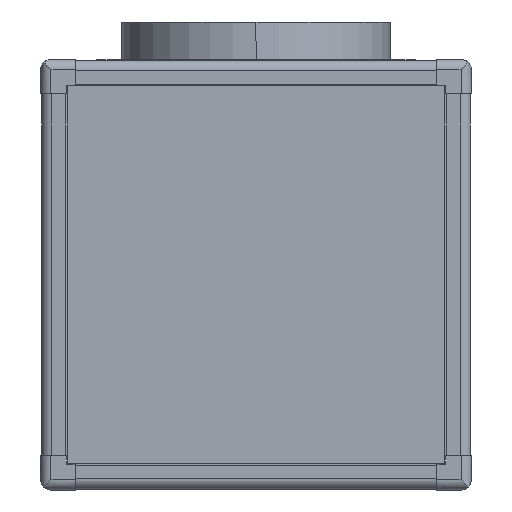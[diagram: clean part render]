
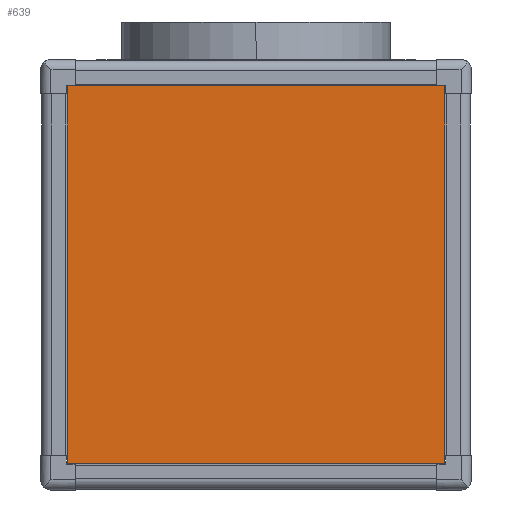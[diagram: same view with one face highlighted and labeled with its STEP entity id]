
A CAD part, front view. The second image highlights one B-rep face of the part: STEP entity #639.
In plain terms, the highlighted planar face has unit normal (0, -1, 0).
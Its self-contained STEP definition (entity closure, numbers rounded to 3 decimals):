
#639=ADVANCED_FACE('',(#1653),#1654,.T.);
#1653=FACE_OUTER_BOUND('',#3161,.T.);
#1654=PLANE('',#3162);
#3161=EDGE_LOOP('',(#5530,#5531,#5532,#5533));
#3162=AXIS2_PLACEMENT_3D('',#5534,#5535,#5536);
#5530=ORIENTED_EDGE('',*,*,#10379,.T.);
#5531=ORIENTED_EDGE('',*,*,#10373,.T.);
#5532=ORIENTED_EDGE('',*,*,#10362,.T.);
#5533=ORIENTED_EDGE('',*,*,#10366,.T.);
#5534=CARTESIAN_POINT('',(0.,-248.5,0.));
#5535=DIRECTION('',(0.,-1.0,0.));
#5536=DIRECTION('',(-1.0,0.,0.0));
#10362=EDGE_CURVE('',#13334,#13332,#13335,.T.);
#10366=EDGE_CURVE('',#13332,#13338,#13340,.T.);
#10373=EDGE_CURVE('',#13350,#13334,#13352,.T.);
#10379=EDGE_CURVE('',#13338,#13350,#13362,.T.);
#13332=VERTEX_POINT('',#18784);
#13334=VERTEX_POINT('',#18787);
#13335=LINE('',#18788,#18789);
#13338=VERTEX_POINT('',#18793);
#13340=LINE('',#18796,#18797);
#13350=VERTEX_POINT('',#18811);
#13352=LINE('',#18814,#18815);
#13362=LINE('',#18829,#18830);
#18784=CARTESIAN_POINT('',(221.5,-248.5,221.5));
#18787=CARTESIAN_POINT('',(221.5,-248.5,-221.5));
#18788=CARTESIAN_POINT('',(221.5,-248.5,0.));
#18789=VECTOR('',#23725,1.0);
#18793=CARTESIAN_POINT('',(-221.5,-248.5,221.5));
#18796=CARTESIAN_POINT('',(0.,-248.5,221.5));
#18797=VECTOR('',#23728,1.0);
#18811=CARTESIAN_POINT('',(-221.5,-248.5,-221.5));
#18814=CARTESIAN_POINT('',(0.,-248.5,-221.5));
#18815=VECTOR('',#23734,1.0);
#18829=CARTESIAN_POINT('',(-221.5,-248.5,0.));
#18830=VECTOR('',#23739,1.0);
#23725=DIRECTION('',(0.,0.,1.0));
#23728=DIRECTION('',(-1.0,0.,0.0));
#23734=DIRECTION('',(1.0,0.,0.0));
#23739=DIRECTION('',(0.,0.,-1.0));
